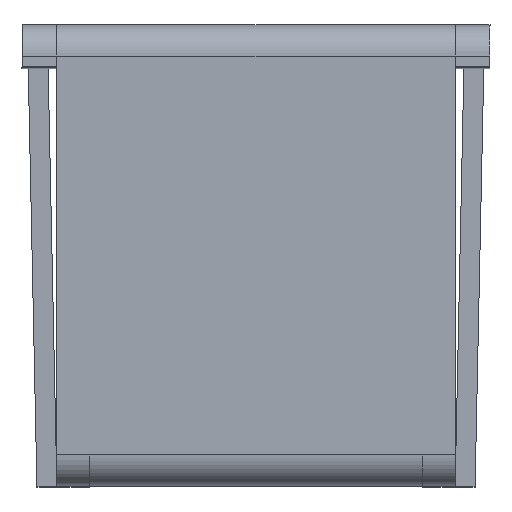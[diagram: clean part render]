
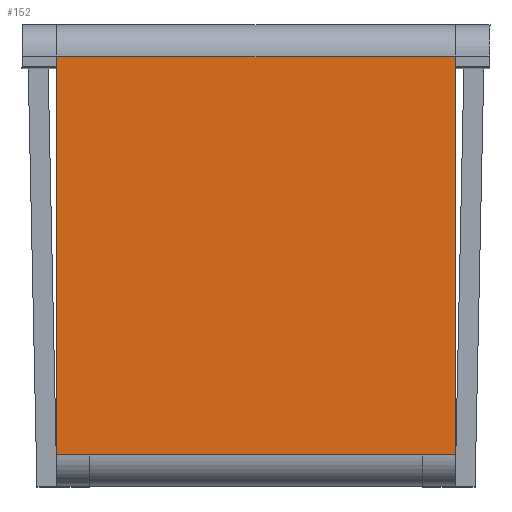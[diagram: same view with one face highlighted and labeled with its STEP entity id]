
A CAD part, top view. The second image highlights one B-rep face of the part: STEP entity #152.
In plain terms, the highlighted planar face has unit normal (0, 0, 1).
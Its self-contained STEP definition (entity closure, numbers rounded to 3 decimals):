
#59=B_SPLINE_CURVE_WITH_KNOTS('',1,(#1872,#1873),.UNSPECIFIED.,.F.,.F.,
(2,2),(-1279.,-959.5),.UNSPECIFIED.);
#63=B_SPLINE_CURVE_WITH_KNOTS('',1,(#1880,#1881),.UNSPECIFIED.,.F.,.F.,
(2,2),(-959.5,-639.5),.UNSPECIFIED.);
#66=B_SPLINE_CURVE_WITH_KNOTS('',1,(#1886,#1887),.UNSPECIFIED.,.F.,.F.,
(2,2),(-639.5,-320.),.UNSPECIFIED.);
#69=B_SPLINE_CURVE_WITH_KNOTS('',1,(#1892,#1893),.UNSPECIFIED.,.F.,.F.,
(2,2),(-320.,0.),.UNSPECIFIED.);
#152=ADVANCED_FACE('',(#240),#1236,.T.);
#240=FACE_OUTER_BOUND('',#328,.T.);
#328=EDGE_LOOP('',(#556,#557,#558,#559));
#556=ORIENTED_EDGE('',*,*,#850,.F.);
#557=ORIENTED_EDGE('',*,*,#847,.F.);
#558=ORIENTED_EDGE('',*,*,#844,.F.);
#559=ORIENTED_EDGE('',*,*,#840,.F.);
#840=EDGE_CURVE('',#1124,#1125,#59,.T.);
#844=EDGE_CURVE('',#1125,#1128,#63,.T.);
#847=EDGE_CURVE('',#1128,#1130,#66,.T.);
#850=EDGE_CURVE('',#1130,#1124,#69,.T.);
#1124=VERTEX_POINT('',#1864);
#1125=VERTEX_POINT('',#1865);
#1128=VERTEX_POINT('',#1868);
#1130=VERTEX_POINT('',#1870);
#1236=PLANE('',#1416);
#1416=AXIS2_PLACEMENT_3D('',#1862,#1507,$);
#1507=DIRECTION('',(0.,0.,1.));
#1862=CARTESIAN_POINT('',(160.,-159.75,460.));
#1864=CARTESIAN_POINT('',(-160.,-159.75,460.));
#1865=CARTESIAN_POINT('',(-160.,159.75,460.));
#1868=CARTESIAN_POINT('',(160.,159.75,460.));
#1870=CARTESIAN_POINT('',(160.,-159.75,460.));
#1872=CARTESIAN_POINT('',(-160.,-159.75,460.));
#1873=CARTESIAN_POINT('',(-160.,159.75,460.));
#1880=CARTESIAN_POINT('',(-160.,159.75,460.));
#1881=CARTESIAN_POINT('',(160.,159.75,460.));
#1886=CARTESIAN_POINT('',(160.,159.75,460.));
#1887=CARTESIAN_POINT('',(160.,-159.75,460.));
#1892=CARTESIAN_POINT('',(160.,-159.75,460.));
#1893=CARTESIAN_POINT('',(-160.,-159.75,460.));
